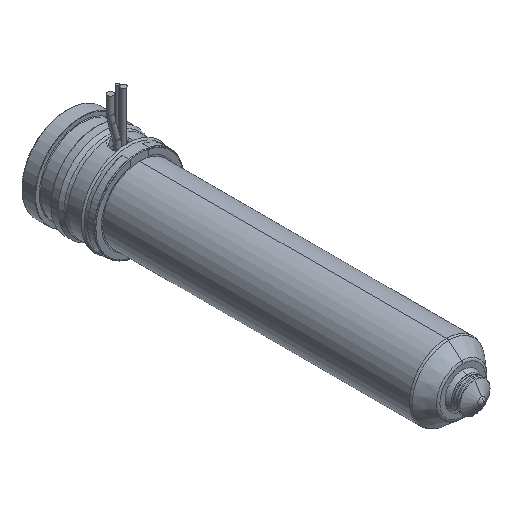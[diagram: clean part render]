
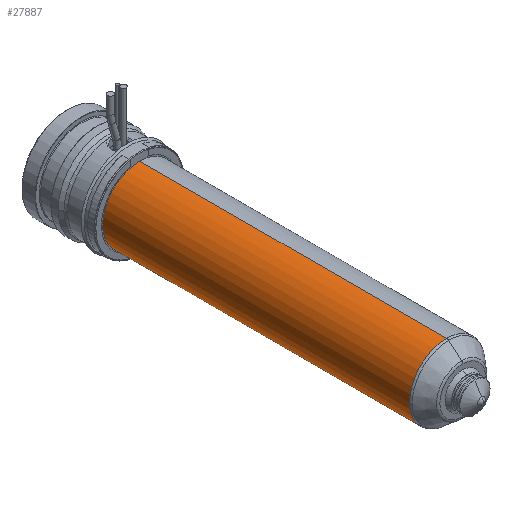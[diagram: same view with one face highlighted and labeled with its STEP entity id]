
A CAD part, isometric view. The second image highlights one B-rep face of the part: STEP entity #27887.
In plain terms, the highlighted cylindrical face has radius 12 mm (diameter 24 mm), a partial arc.
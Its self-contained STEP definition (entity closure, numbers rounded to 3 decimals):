
#27372=CARTESIAN_POINT('',(0.,-24.,0.));
#27373=DIRECTION('',(0.,1.,0.));
#27374=DIRECTION('',(0.,0.,-1.));
#27375=AXIS2_PLACEMENT_3D('',#27372,#27373,#27374);
#27380=DIRECTION('',(0.,1.,0.));
#27381=VECTOR('',#27380,99.736);
#27382=CARTESIAN_POINT('',(0.,-123.736,12.));
#27383=LINE('',#27382,#27381);
#27395=DIRECTION('',(0.,1.,0.));
#27396=VECTOR('',#27395,99.736);
#27397=CARTESIAN_POINT('',(0.,-123.736,-12.));
#27398=LINE('',#27397,#27396);
#27426=CARTESIAN_POINT('',(0.,-123.736,0.));
#27427=DIRECTION('',(0.,-1.,0.));
#27428=DIRECTION('',(0.,0.,1.));
#27429=AXIS2_PLACEMENT_3D('',#27426,#27427,#27428);
#27756=CARTESIAN_POINT('',(0.,-123.736,12.));
#27757=CARTESIAN_POINT('',(0.,-24.,12.));
#27758=VERTEX_POINT('',#27756);
#27759=VERTEX_POINT('',#27757);
#27760=CARTESIAN_POINT('',(0.,-123.736,-12.));
#27761=CARTESIAN_POINT('',(0.,-24.,-12.));
#27762=VERTEX_POINT('',#27760);
#27763=VERTEX_POINT('',#27761);
#27873=CARTESIAN_POINT('',(0.,-14.2,0.));
#27874=DIRECTION('',(0.,-1.,0.));
#27875=DIRECTION('',(0.,0.,1.));
#27876=AXIS2_PLACEMENT_3D('',#27873,#27874,#27875);
#27877=CYLINDRICAL_SURFACE('',#27876,12.);
#27879=ORIENTED_EDGE('',*,*,#27878,.F.);
#27881=ORIENTED_EDGE('',*,*,#27880,.T.);
#27883=ORIENTED_EDGE('',*,*,#27882,.T.);
#27884=ORIENTED_EDGE('',*,*,#27866,.T.);
#27885=EDGE_LOOP('',(#27879,#27881,#27883,#27884));
#27886=FACE_OUTER_BOUND('',#27885,.F.);
#27887=ADVANCED_FACE('',(#27886),#27877,.T.);
#27376=CIRCLE('',#27375,12.);
#27430=CIRCLE('',#27429,12.);
#27866=EDGE_CURVE('',#27763,#27759,#27376,.T.);
#27878=EDGE_CURVE('',#27758,#27759,#27383,.T.);
#27880=EDGE_CURVE('',#27758,#27762,#27430,.T.);
#27882=EDGE_CURVE('',#27762,#27763,#27398,.T.);
